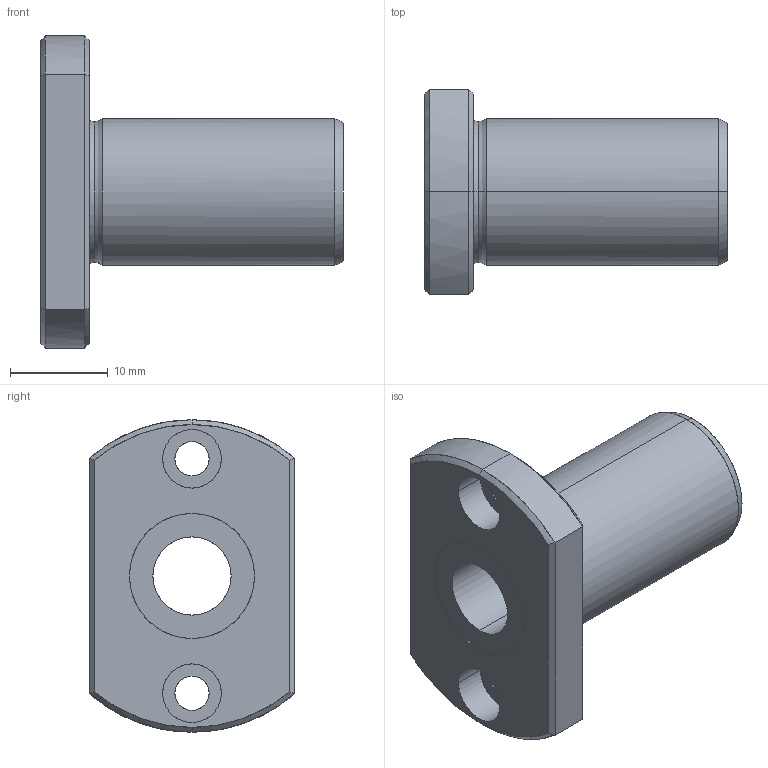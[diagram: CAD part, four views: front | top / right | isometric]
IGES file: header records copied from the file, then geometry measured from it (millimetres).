
Global section: file name: No Iges File Name specified; native system: AutoDesk Inventor R10; preprocessor: AutoDesk Inventor Iges Exporter R10; author: No Author specified; organization: No Organization specified; date: 20101216.173150; units: millimetre
Bounding box: 31 x 21 x 32 mm (x, y, z)
Surface area: 3677.9 mm2 (no closed solid volume)
Topology: 0 solids, 0 shells, 47 faces, 280 edges, 280 vertices
Faces by surface type: bspline 47
